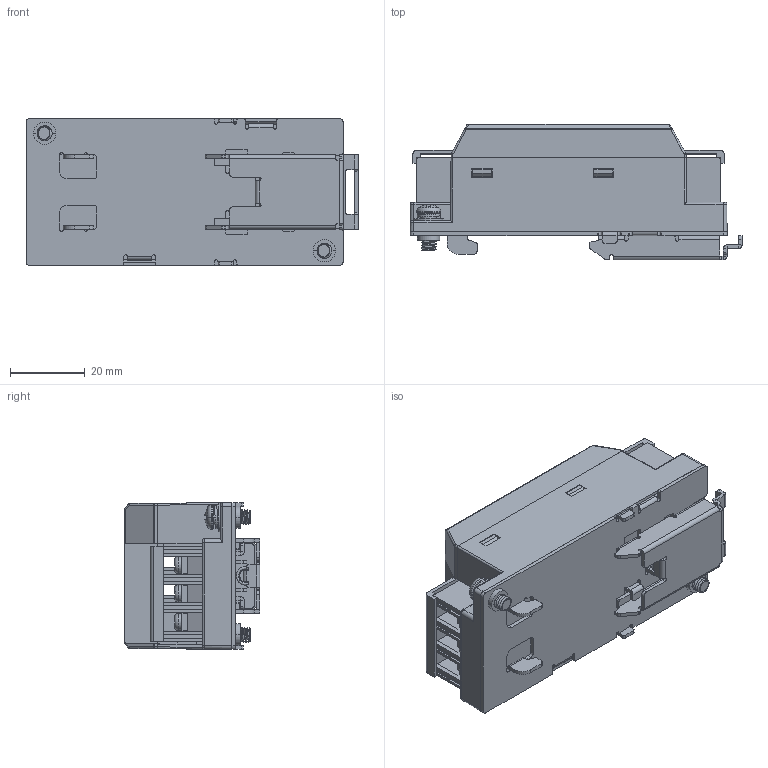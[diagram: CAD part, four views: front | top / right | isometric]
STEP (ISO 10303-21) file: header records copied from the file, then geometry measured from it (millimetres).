
FILE_DESCRIPTION((''),'2;1');
FILE_NAME('FC-L0XWXA2S_ASM','2022-11-08T',('pe213'),(''),'PRO/ENGINEER BY PARAMETRIC TECHNOLOGY CORPORATION, 2014000','PRO/ENGINEER BY PARAMETRIC TECHNOLOGY CORPORATION, 2014000','');
FILE_SCHEMA(('AUTOMOTIVE_DESIGN { 1 0 10303 214 1 1 1 1 }'));
Length unit declared in the file: millimetre
Products named in the file (14): PCB_27_1_1; ZLDZ-3P_15_1_1; BB_34_1_1; DZG-G_2_1_1; MANIFOLD_SOLID_BREP_58_6_1_1; ADMI103C73E6C1MI_ASM_1_ASM_1_AS_ASM; ZUZHUANG220415_ASM_1_ASM_1_ASM__ASM; 00_ASM_95_ASM_1_ASM_1_ASM; DB2; DB-K; TH_OK; PWM4X10-J; DB2_ASM; FC-L0XWXA2S_ASM
Assembly tree (16 placements, depth 5):
  FC-L0XWXA2S_ASM
    00_ASM_95_ASM_1_ASM_1_ASM
      PCB_27_1_1
      ZLDZ-3P_15_1_1  x2
      BB_34_1_1
      DZG-G_2_1_1  x2
      ZUZHUANG220415_ASM_1_ASM_1_ASM__ASM
        ADMI103C73E6C1MI_ASM_1_ASM_1_AS_ASM
          MANIFOLD_SOLID_BREP_58_6_1_1
    DB2_ASM
      DB2
      DB-K
      TH_OK
      PWM4X10-J  x2
Bounding box: 89 x 36.4 x 39.35 mm (x, y, z)
Volume: 28224 mm3; surface area: 46232.8 mm2
Topology: 14 solids, 14 shells, 1445 faces, 3878 edges, 2488 vertices
Faces by surface type: plane 988, cylinder 357, bspline 56, torus 32, sphere 8, cone 4
Entity records: 54567 total; most frequent: CARTESIAN_POINT 14312, ORIENTED_EDGE 6338, DIRECTION 5961, EDGE_CURVE 3169, PRESENTATION_STYLE_ASSIGNMENT 3110, STYLED_ITEM 3105, CURVE_STYLE 3097, VECTOR 2279
